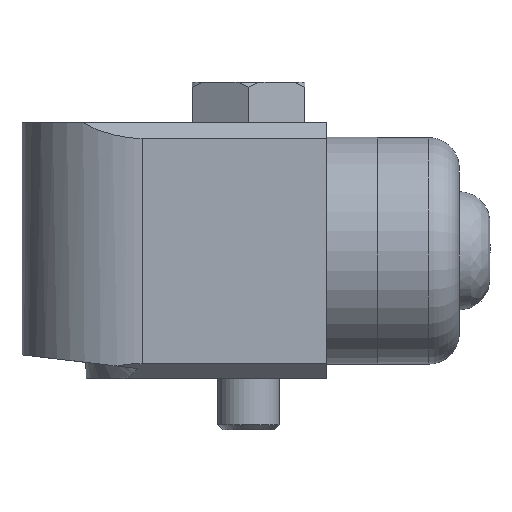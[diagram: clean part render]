
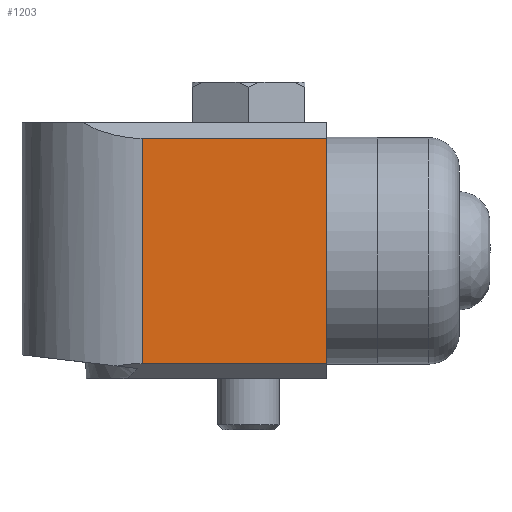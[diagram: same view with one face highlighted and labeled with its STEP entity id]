
A CAD part, left-side view. The second image highlights one B-rep face of the part: STEP entity #1203.
In plain terms, the highlighted planar face has unit normal (-1, 0, 0).
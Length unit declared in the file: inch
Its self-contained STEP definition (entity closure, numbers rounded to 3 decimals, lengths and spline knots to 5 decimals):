
#83=LINE('',#1953,#142);
#84=LINE('',#1955,#143);
#85=LINE('',#1957,#144);
#86=LINE('',#1958,#145);
#142=VECTOR('',#1553,0.3937);
#143=VECTOR('',#1554,0.3937);
#144=VECTOR('',#1555,0.3937);
#145=VECTOR('',#1556,0.3937);
#228=FACE_OUTER_BOUND('',#300,.T.);
#300=EDGE_LOOP('',(#818,#819,#820,#821));
#483=VERTEX_POINT('',#1951);
#484=VERTEX_POINT('',#1952);
#485=VERTEX_POINT('',#1954);
#486=VERTEX_POINT('',#1956);
#616=EDGE_CURVE('',#483,#484,#83,.T.);
#617=EDGE_CURVE('',#483,#485,#84,.T.);
#618=EDGE_CURVE('',#486,#485,#85,.T.);
#619=EDGE_CURVE('',#484,#486,#86,.T.);
#818=ORIENTED_EDGE('',*,*,#616,.F.);
#819=ORIENTED_EDGE('',*,*,#617,.T.);
#820=ORIENTED_EDGE('',*,*,#618,.F.);
#821=ORIENTED_EDGE('',*,*,#619,.F.);
#1087=PLANE('',#1326);
#1203=ADVANCED_FACE('',(#228),#1087,.T.);
#1326=AXIS2_PLACEMENT_3D('',#1950,#1551,#1552);
#1551=DIRECTION('center_axis',(-1.,0.,0.));
#1552=DIRECTION('ref_axis',(0.,0.,1.));
#1553=DIRECTION('',(0.,1.,0.));
#1554=DIRECTION('',(0.,0.,1.));
#1555=DIRECTION('',(0.,-1.,0.));
#1556=DIRECTION('',(0.,0.,1.));
#1950=CARTESIAN_POINT('Origin',(-1.92255,-1.33419,-0.11957));
#1951=CARTESIAN_POINT('',(-1.92255,-1.68852,-0.11953));
#1952=CARTESIAN_POINT('',(-1.92255,-0.97985,-0.11953));
#1953=CARTESIAN_POINT('',(-1.92255,-1.68852,-0.11953));
#1954=CARTESIAN_POINT('',(-1.92255,-1.68852,0.74661));
#1955=CARTESIAN_POINT('',(-1.92255,-1.68852,-0.11953));
#1956=CARTESIAN_POINT('',(-1.92255,-0.97985,0.74661));
#1957=CARTESIAN_POINT('',(-1.92255,-0.97985,0.74661));
#1958=CARTESIAN_POINT('',(-1.92255,-0.97985,-0.11953));
